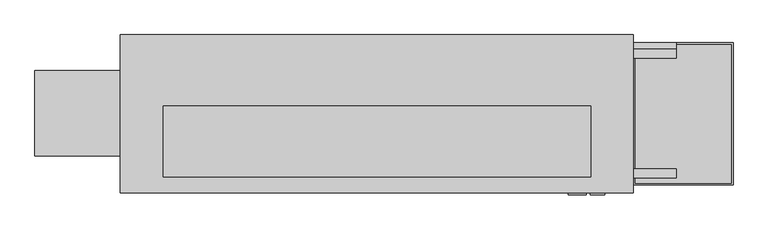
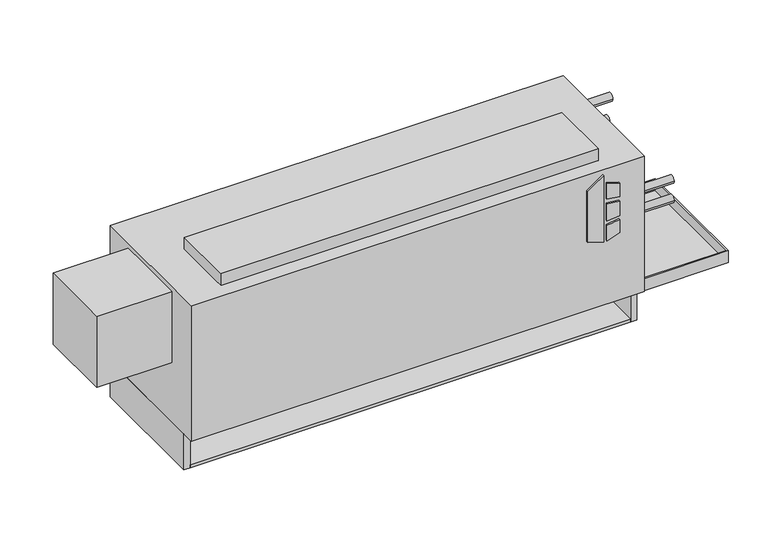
"""IFC4 building model written with IfcOpenShell, lengths in millimetres: proxy geometry, Concealed_Vertical_Low_Boy_Fan_Coil_Unit Fan_-_LHA_-_IEC_-_4-Pipe_RH_2022 : Size 04 - 277v/60Hz/1Ph - 2/1 Coil."""

import ifcopenshell
import ifcopenshell.guid

model = None  # the IFC model being written
_history = None  # IfcOwnerHistory: only IFC2X3 demands one
_inside = {}  # id of a spatial element -> (the spatial element, [elements in it])
_under = {}  # id of a project, library or spatial element -> (it, [spatial elements below it])
_declared = {}  # id of a project -> (the project, [libraries it declares])
_typed = {}  # id of a type object -> (the type object, [elements of that type])
_made_of = {}  # id of a material, layer set ... -> (it, [elements and type objects made of it])


def new_model(schema):
    """Start an empty IFC model of exactly this schema.

    Asked for "IFC4X3", IfcOpenShell would pick the latest addendum, in which some entities
    have other attributes; the version numbers below select the first issue.
    IFC2X3 requires an IfcOwnerHistory on every rooted entity: one is made here for all.
    """
    global model, _history
    if schema == "IFC4X3":
        model = ifcopenshell.file(schema_version=(4, 3, 0, 0))
    else:
        model = ifcopenshell.file(schema=schema)
    _inside.clear()
    _under.clear()
    _declared.clear()
    _typed.clear()
    _made_of.clear()
    _history = None
    if model.schema == "IFC2X3":
        org = make("IfcOrganization", Name="unknown")
        user = make(
            "IfcPersonAndOrganization",
            ThePerson=make("IfcPerson", FamilyName="unknown"),
            TheOrganization=org,
        )
        app = make(
            "IfcApplication",
            ApplicationDeveloper=org,
            Version="unknown",
            ApplicationFullName="unknown",
            ApplicationIdentifier="unknown",
        )
        _history = make(
            "IfcOwnerHistory",
            OwningUser=user,
            OwningApplication=app,
            ChangeAction="ADDED",
            CreationDate=0,
        )
    return model


def make(cls, **values):
    """One entity of the class cls with the attributes given. An attribute that is None is left unset."""
    return model.create_entity(
        cls, **{name: value for name, value in values.items() if value is not None}
    )


def rooted(cls, **values):
    """An entity with a GlobalId (a new one), such as an element, a storey or a relation."""
    return make(cls, GlobalId=ifcopenshell.guid.new(), OwnerHistory=_history, **values)


def si_unit(unit_type, name, prefix=None):
    """IfcSIUnit, for example si_unit("LENGTHUNIT", "METRE", prefix="MILLI")."""
    return make("IfcSIUnit", UnitType=unit_type, Prefix=prefix, Name=name)


def assignment(units):
    """IfcUnitAssignment: the units of a project."""
    return None if units is None else make("IfcUnitAssignment", Units=units)


def point(xyz):
    """IfcCartesianPoint."""
    return None if xyz is None else make("IfcCartesianPoint", Coordinates=xyz)


def direction(xyz):
    """IfcDirection."""
    return None if xyz is None else make("IfcDirection", DirectionRatios=xyz)


def frame(location, z_axis=None, x_axis=None):
    """IfcAxis2Placement3D, a coordinate frame: its origin and axes. An axis left out is left unset."""
    return make(
        "IfcAxis2Placement3D",
        Location=point(location),
        Axis=direction(z_axis),
        RefDirection=direction(x_axis),
    )


def frame_2d(location, x_axis=None):
    """IfcAxis2Placement2D, a coordinate frame in the plane: its origin and x axis."""
    return make(
        "IfcAxis2Placement2D", Location=point(location), RefDirection=direction(x_axis)
    )


def origin():
    """The frame at (0, 0, 0) with its axes left unset."""
    return frame((0.0, 0.0, 0.0))


def origin_with_axes():
    """The frame at (0, 0, 0) with the z axis (0, 0, 1) and the x axis (1, 0, 0) written out."""
    return frame((0.0, 0.0, 0.0), z_axis=(0.0, 0.0, 1.0), x_axis=(1.0, 0.0, 0.0))


def place(relative_to, where):
    """IfcLocalPlacement: puts the frame where relative to a parent placement (None: the world)."""
    return make(
        "IfcLocalPlacement", PlacementRelTo=relative_to, RelativePlacement=where
    )


def context(
    kind, dimensions, precision=None, world=None, true_north=None, identifier=None
):
    """IfcGeometricRepresentationContext, for example the 3D "Model" context."""
    return make(
        "IfcGeometricRepresentationContext",
        ContextIdentifier=identifier,
        ContextType=kind,
        CoordinateSpaceDimension=dimensions,
        Precision=precision,
        WorldCoordinateSystem=world,
        TrueNorth=true_north,
    )


def project(units=None, contexts=None):
    """IfcProject with its units and contexts."""
    return rooted(
        "IfcProject",
        Name="project",
        RepresentationContexts=contexts,
        UnitsInContext=assignment(units),
    )


def spatial(cls, under=None, at=None, **own):
    """A site, building, storey or space (cls), placed at a placement, below another one or the project."""
    s = rooted(cls, ObjectPlacement=at, **own)
    if under is not None:
        _under.setdefault(under.id(), (under, []))[1].append(s)
    return s


def polyline(points):
    """IfcPolyline through the points."""
    return make("IfcPolyline", Points=[point(p) for p in points])


def circle_curve(where, radius):
    """IfcCircle in the frame where."""
    return make("IfcCircle", Position=where, Radius=radius)


def trimmed(basis, trim1, trim2, sense, master):
    """IfcTrimmedCurve: the piece of a basis curve between two trims."""
    return make(
        "IfcTrimmedCurve",
        BasisCurve=basis,
        Trim1=trim1,
        Trim2=trim2,
        SenseAgreement=sense,
        MasterRepresentation=master,
    )


def segment(curve, same_sense, transition):
    """IfcCompositeCurveSegment."""
    return make(
        "IfcCompositeCurveSegment",
        Transition=transition,
        SameSense=same_sense,
        ParentCurve=curve,
    )


def composite_curve(segments, self_intersect=None):
    """IfcCompositeCurve: segments joined end to end."""
    return make("IfcCompositeCurve", Segments=segments, SelfIntersect=self_intersect)


def outline(outer, holes=None, kind="AREA"):
    """IfcArbitraryClosedProfileDef: a profile drawn as a closed curve; with holes, ...WithVoids."""
    if holes is None:
        return make("IfcArbitraryClosedProfileDef", ProfileType=kind, OuterCurve=outer)
    return make(
        "IfcArbitraryProfileDefWithVoids",
        ProfileType=kind,
        OuterCurve=outer,
        InnerCurves=holes,
    )


def extrude(swept, where, along, depth):
    """IfcExtrudedAreaSolid: the profile swept, set in the frame where, extruded along a direction by depth."""
    return make(
        "IfcExtrudedAreaSolid",
        SweptArea=swept,
        Position=where,
        ExtrudedDirection=direction(along),
        Depth=depth,
    )


def faces_of(points, faces, orient=None, outer=None):
    """IfcFace entities. A face is a list of loops; a loop is a list of indices into points, from 0.

    orient and outer hold one flag for each loop. By default every Orientation is true, the
    first loop of a face is its IfcFaceOuterBound and the others are IfcFaceBound.
    """
    made = []
    for i, loops in enumerate(faces):
        bounds = []
        for j, loop in enumerate(loops):
            is_outer = j == 0 if outer is None else outer[i][j]
            bounds.append(
                make(
                    "IfcFaceOuterBound" if is_outer else "IfcFaceBound",
                    Bound=make("IfcPolyLoop", Polygon=[points[k] for k in loop]),
                    Orientation=True if orient is None else orient[i][j],
                )
            )
        made.append(make("IfcFace", Bounds=bounds))
    return made


def faceted_brep(points, faces, orient=None, outer=None, voids=None):
    """IfcFacetedBrep: a solid bounded by flat faces; with voids (closed shells), ...WithVoids."""
    shared = [point(p) for p in points]
    hull = make("IfcClosedShell", CfsFaces=faces_of(shared, faces, orient, outer))
    if voids is None:
        return make("IfcFacetedBrep", Outer=hull)
    return make(
        "IfcFacetedBrepWithVoids",
        Outer=hull,
        Voids=[
            make(cls, CfsFaces=faces_of(shared, fs, o, b)) for cls, fs, o, b in voids
        ],
    )


def shape(context_of_items, identifier, shape_type, items):
    """IfcShapeRepresentation: the items that make up one representation, for example the "Body"."""
    return make(
        "IfcShapeRepresentation",
        ContextOfItems=context_of_items,
        RepresentationIdentifier=identifier,
        RepresentationType=shape_type,
        Items=items,
    )


def source(mapping_origin, context_of_items, identifier, shape_type, items):
    """IfcRepresentationMap: a shape defined once, which mapped items show again and again."""
    return make(
        "IfcRepresentationMap",
        MappingOrigin=mapping_origin,
        MappedRepresentation=shape(context_of_items, identifier, shape_type, items),
    )


def transform(
    local_origin,
    x_axis=None,
    y_axis=None,
    z_axis=None,
    scale=None,
    scale2=None,
    scale3=None,
    uniform=True,
):
    """IfcCartesianTransformationOperator3D, or its non-uniform kind. x_axis, y_axis, z_axis: its Axis1, 2, 3."""
    if uniform:
        return make(
            "IfcCartesianTransformationOperator3D",
            Axis1=direction(x_axis),
            Axis2=direction(y_axis),
            LocalOrigin=point(local_origin),
            Scale=scale,
            Axis3=direction(z_axis),
        )
    return make(
        "IfcCartesianTransformationOperator3DnonUniform",
        Axis1=direction(x_axis),
        Axis2=direction(y_axis),
        LocalOrigin=point(local_origin),
        Scale=scale,
        Axis3=direction(z_axis),
        Scale2=scale2,
        Scale3=scale3,
    )


def mapped(mapping_source, mapping_target):
    """IfcMappedItem: shows the shape of a source again, moved by a transform."""
    return make(
        "IfcMappedItem", MappingSource=mapping_source, MappingTarget=mapping_target
    )


def made_of(thing, what):
    """Note that an element or type object is made of a material, layer set ...; save() writes the relation."""
    if what is not None:
        _made_of.setdefault(what.id(), (what, []))[1].append(thing)
    return thing


def element(
    cls,
    number,
    at=None,
    inside=None,
    cuts=None,
    type_object=None,
    material=None,
    context=None,
    identifier="Body",
    shape_type=None,
    held_by="IfcProductDefinitionShape",
    body=None,
    shapes=None,
    **own,
):
    """One element of the class cls, such as IfcWall. Its Tag is "e" and its number.

    at: its placement. inside: the storey or other place that contains it. cuts: it is an
    opening in that element (IfcRelVoidsElement). A single representation is given by context,
    identifier, shape_type and body (its items); several are given by shapes. held_by: the class
    of the entity that holds the representations. save() writes the other relations.
    """
    e = rooted(cls, Tag="e%d" % number, ObjectPlacement=at, **own)
    if body is not None:
        shapes = [shape(context, identifier, shape_type, body)]
    if shapes is not None:
        e.Representation = make(held_by, Representations=shapes)
    if inside is not None:
        _inside.setdefault(inside.id(), (inside, []))[1].append(e)
    if cuts is not None:
        rooted(
            "IfcRelVoidsElement", RelatingBuildingElement=cuts, RelatedOpeningElement=e
        )
    if type_object is not None:
        _typed.setdefault(type_object.id(), (type_object, []))[1].append(e)
    return made_of(e, material)


def aggregate(whole, parts):
    """IfcRelAggregates: a whole, such as a stair, and the parts it consists of."""
    return rooted("IfcRelAggregates", RelatingObject=whole, RelatedObjects=parts)


def save(model, path):
    """Write the relations noted so far, then the file.

    IfcRelAggregates (storeys below a building ...), IfcRelContainedInSpatialStructure (elements
    in a storey), IfcRelDefinesByType, IfcRelAssociatesMaterial and IfcRelDeclares: one each for
    every whole, place, type object, material and project.
    """
    for whole, parts in _under.values():
        aggregate(whole, parts)
    for where, things in _inside.values():
        rooted(
            "IfcRelContainedInSpatialStructure",
            RelatedElements=things,
            RelatingStructure=where,
        )
    for kind, things in _typed.values():
        rooted("IfcRelDefinesByType", RelatedObjects=things, RelatingType=kind)
    for what, things in _made_of.values():
        rooted("IfcRelAssociatesMaterial", RelatedObjects=things, RelatingMaterial=what)
    for by, libraries in _declared.values():
        rooted("IfcRelDeclares", RelatingContext=by, RelatedDefinitions=libraries)
    model.write(path)


def mechanical_equipment_6f05d1df(model_context):
    return source(origin(), model_context, "Body", "SolidModel", [
        faceted_brep([(1244.6, -252.4125, 92.075), (1066.8, -252.4125, 92.075), (1066.8, -506.4125, 92.075), (1244.6, -506.4125, 92.075), (1069.975, -255.5875, 92.075), (1241.425, -255.5875, 92.075), (1241.425, -503.2375, 92.075), (1069.975, -503.2375, 92.075), (1244.6, -252.4125, 66.675), (1244.6, -506.4125, 66.675), (1066.8, -506.4125, 66.675), (1066.8, -252.4125, 66.675), (1241.425, -255.5875, 69.8497888), (1069.975, -255.5875, 69.8497888), (1069.975, -503.2375, 69.8497888), (1241.425, -503.2375, 69.8497888)], [[[0, 1, 2, 3], [4, 5, 6, 7]], [[8, 9, 10, 11]], [[1, 0, 8, 11]], [[2, 1, 11, 10]], [[3, 2, 10, 9]], [[0, 3, 9, 8]], [[12, 13, 14, 15]], [[13, 12, 5, 4]], [[14, 13, 4, 7]], [[15, 14, 7, 6]], [[12, 15, 6, 5]]]),
        extrude(outline(composite_curve([segment(trimmed(circle_curve(frame_2d((1155.7, -379.4125)), 9.525), [point((1146.175, -379.4125))], [point((1165.225, -379.4125))], False, "CARTESIAN"), True, "CONTINUOUS"), segment(trimmed(circle_curve(frame_2d((1155.7, -379.4125)), 9.525), [point((1165.225, -379.4125))], [point((1146.175, -379.4125))], False, "CARTESIAN"), True, "CONTINUOUS")], self_intersect=False)), frame((0.0, 0.0, 41.275), z_axis=(0.0, 0.0, 1.0), x_axis=(1.0, 0.0, 0.0)), (0.0, 0.0, 1.0), 25.4),
        extrude(outline(polyline([(222.6730703, 950.9868862), (212.725, 983.1602728), (354.8959244, 983.1602728), (331.8739183, 950.9868862), (222.6730703, 950.9868862)])), frame((0.0, -523.875, 0.0), z_axis=(0.0, 1.0, 0.0), x_axis=(0.0, 0.0, 1.0)), (0.0, 0.0, 1.0), 3.175),
        extrude(outline(polyline([(301.6723557, 989.9186058), (298.4699632, 1016.0), (327.6988042, 1016.0), (335.7632193, 989.9186058), (301.6723557, 989.9186058)])), frame((0.0, -523.875, 0.0), z_axis=(0.0, 1.0, 0.0), x_axis=(0.0, 0.0, 1.0)), (0.0, 0.0, 1.0), 3.175),
        extrude(outline(polyline([(249.8088288, 1016.0), (246.1433279, 989.9186058), (212.725, 989.9186058), (221.3592372, 1016.0), (249.8088288, 1016.0)])), frame((0.0, -523.875, 0.0), z_axis=(0.0, 1.0, 0.0), x_axis=(0.0, 0.0, 1.0)), (0.0, 0.0, 1.0), 3.175),
        extrude(outline(polyline([(289.1239903, 1016.0), (291.4058166, 989.9186058), (255.4682681, 989.9186058), (258.2095331, 1016.0), (289.1239903, 1016.0)])), frame((0.0, -523.875, 0.0), z_axis=(0.0, 1.0, 0.0), x_axis=(0.0, 0.0, 1.0)), (0.0, 0.0, 1.0), 3.175),
        extrude(outline(polyline([(990.6, -365.125), (990.6, -492.125), (228.6, -492.125), (228.6, -365.125), (990.6, -365.125)])), frame((0.0, 0.0, 365.125), z_axis=(0.0, 0.0, 1.0), x_axis=(1.0, 0.0, 0.0)), (0.0, 0.0, 1.0), 25.4),
        extrude(outline(polyline([(1066.8, -520.7), (152.4, -520.7), (152.4, -238.125), (1066.8, -238.125), (1066.8, -520.7)])), frame((0.0, 0.0, 76.2), z_axis=(0.0, 0.0, 1.0), x_axis=(1.0, 0.0, 0.0)), (0.0, 0.0, 1.0), 288.925),
        extrude(outline(polyline([(1054.1, -495.3), (165.1, -495.3), (165.1, -244.475), (1054.1, -244.475), (1054.1, -495.3)])), origin_with_axes(), (0.0, 0.0, 1.0), 6.35),
        extrude(outline(polyline([(1054.1, -238.125), (1054.1, -244.475), (165.1, -244.475), (165.1, -238.125), (1054.1, -238.125)])), origin_with_axes(), (0.0, 0.0, 1.0), 76.2),
        extrude(outline(polyline([(1066.8, -238.125), (1066.8, -495.3), (1054.1, -495.3), (1054.1, -238.125), (1066.8, -238.125)])), origin_with_axes(), (0.0, 0.0, 1.0), 76.2),
        extrude(outline(polyline([(165.1, -238.125), (165.1, -495.3), (152.4, -495.3), (152.4, -238.125), (165.1, -238.125)])), origin_with_axes(), (0.0, 0.0, 1.0), 76.2),
        extrude(outline(composite_curve([segment(trimmed(circle_curve(frame_2d((-271.4625, 314.325)), 7.9375), [point((-263.525, 314.325))], [point((-279.4, 314.325))], False, "CARTESIAN"), True, "CONTINUOUS"), segment(trimmed(circle_curve(frame_2d((-271.4625, 314.325)), 7.9375), [point((-279.4, 314.325))], [point((-263.525, 314.325))], False, "CARTESIAN"), True, "CONTINUOUS")], self_intersect=False)), frame((1066.8, 0.0, 0.0), z_axis=(1.0, 0.0, 0.0), x_axis=(0.0, 1.0, 0.0)), (0.0, 0.0, 1.0), 76.2),
        extrude(outline(composite_curve([segment(trimmed(circle_curve(frame_2d((-260.35, 260.35)), 7.9375), [point((-252.4125, 260.35))], [point((-268.2875, 260.35))], False, "CARTESIAN"), True, "CONTINUOUS"), segment(trimmed(circle_curve(frame_2d((-260.35, 260.35)), 7.9375), [point((-268.2875, 260.35))], [point((-252.4125, 260.35))], False, "CARTESIAN"), True, "CONTINUOUS")], self_intersect=False)), frame((1066.8, 0.0, 0.0), z_axis=(1.0, 0.0, 0.0), x_axis=(0.0, 1.0, 0.0)), (0.0, 0.0, 1.0), 76.2),
        extrude(outline(composite_curve([segment(trimmed(circle_curve(frame_2d((-485.775, 227.0125)), 7.9375), [point((-477.8375, 227.0125))], [point((-493.7125, 227.0125))], False, "CARTESIAN"), True, "CONTINUOUS"), segment(trimmed(circle_curve(frame_2d((-485.775, 227.0125)), 7.9375), [point((-493.7125, 227.0125))], [point((-477.8375, 227.0125))], False, "CARTESIAN"), True, "CONTINUOUS")], self_intersect=False)), frame((1066.8, 0.0, 0.0), z_axis=(1.0, 0.0, 0.0), x_axis=(0.0, 1.0, 0.0)), (0.0, 0.0, 1.0), 76.2),
        extrude(outline(composite_curve([segment(trimmed(circle_curve(frame_2d((-485.775, 268.2875)), 7.9375), [point((-477.8375, 268.2875))], [point((-493.7125, 268.2875))], False, "CARTESIAN"), True, "CONTINUOUS"), segment(trimmed(circle_curve(frame_2d((-485.775, 268.2875)), 7.9375), [point((-493.7125, 268.2875))], [point((-477.8375, 268.2875))], False, "CARTESIAN"), True, "CONTINUOUS")], self_intersect=False)), frame((1066.8, 0.0, 0.0), z_axis=(1.0, 0.0, 0.0), x_axis=(0.0, 1.0, 0.0)), (0.0, 0.0, 1.0), 76.2),
        extrude(outline(polyline([(0.0, -301.625), (152.4, -301.625), (152.4, -454.025), (0.0, -454.025), (0.0, -301.625)])), frame((0.0, 0.0, 203.5632719), z_axis=(0.0, 0.0, 1.0), x_axis=(1.0, 0.0, 0.0)), (0.0, 0.0, 1.0), 152.0367281),
    ])


if __name__ == "__main__":
    model = new_model("IFC4")
    model_context = context("Model", 3, world=origin())
    ifc_project = project(units=[si_unit("LENGTHUNIT", "METRE", prefix="MILLI")], contexts=[model_context])
    site = spatial("IfcSite", under=ifc_project)
    building = spatial("IfcBuilding", under=site)
    placement = place(None, origin())
    mechanical_equipment_shape = mechanical_equipment_6f05d1df(model_context)
    element("IfcBuildingElementProxy", 1, Name="Concealed_Vertical_Low_Boy_Fan_Coil_Unit Fan_-_LHA_-_IEC_-_4-Pipe_RH_2022 : Size 04 - 277v/60Hz/1Ph - 2/1 Coil", ObjectType="Concealed_Vertical_Low_Boy_Fan_Coil_Unit Fan_-_LHA_-_IEC_-_4-Pipe_RH_2022 : Size 04 - 277v/60Hz/1Ph - 2/1 Coil", at=placement, inside=building, context=model_context, shape_type="MappedRepresentation", body=[
        mapped(mechanical_equipment_shape, transform((0.0, 0.0, 0.0), x_axis=(1.0, 0.0, 0.0), y_axis=(0.0, 1.0, 0.0), z_axis=(0.0, 0.0, 1.0))),
    ])
    save(model, "model.ifc")
